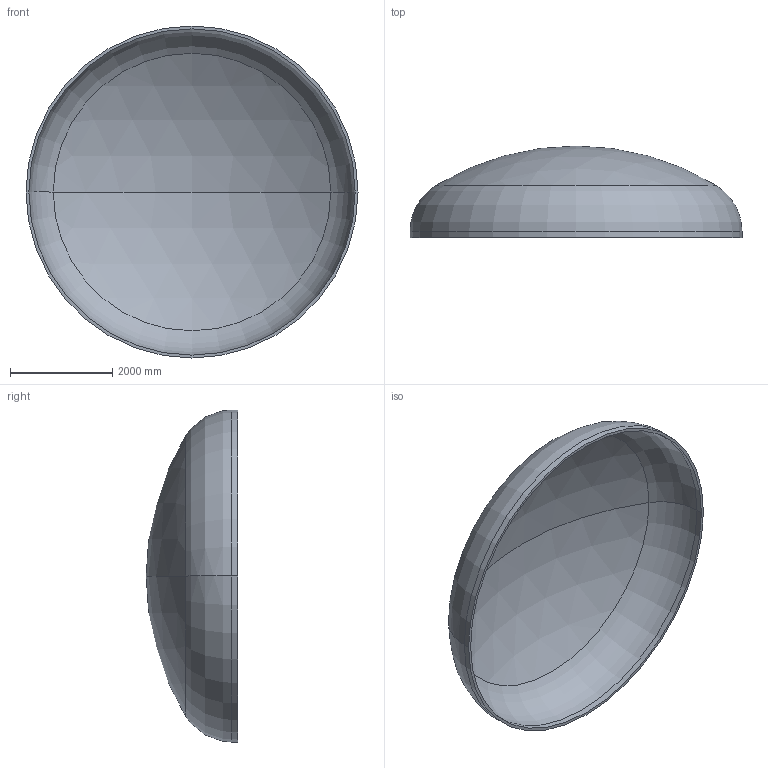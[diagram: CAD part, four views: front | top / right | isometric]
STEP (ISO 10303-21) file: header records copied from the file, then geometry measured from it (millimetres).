
FILE_DESCRIPTION (( 'STEP AP203' ), '1' );
FILE_NAME ('DIN 28013 Korbbogenform_-_Boden DIN 28013 - 6500 x 120 - I - s=56.step', '2016-07-04T10:42:36', ( '' ), ( '' ), 'SwSTEP 2.0', 'SolidWorks 2013', '' );
FILE_SCHEMA (( 'CONFIG_CONTROL_DESIGN' ));
Length unit declared in the file: millimetre
Products named in the file (1): DIN 28013 Korbbogenform_-_Boden DIN 28013 - 6500 x 120 - I - s=56
Bounding box: 6500 x 1794.61 x 6500 mm (x, y, z)
Volume: 2680050409.7 mm3; surface area: 96856304.9 mm2
Topology: 1 solids, 1 shells, 13 faces, 24 edges, 14 vertices
Faces by surface type: torus 4, cylinder 4, sphere 4, plane 1
Entity records: 407 total; most frequent: DIRECTION 72, CARTESIAN_POINT 52, ORIENTED_EDGE 48, AXIS2_PLACEMENT_3D 34, EDGE_CURVE 24, CIRCLE 20, EDGE_LOOP 14, VERTEX_POINT 14
